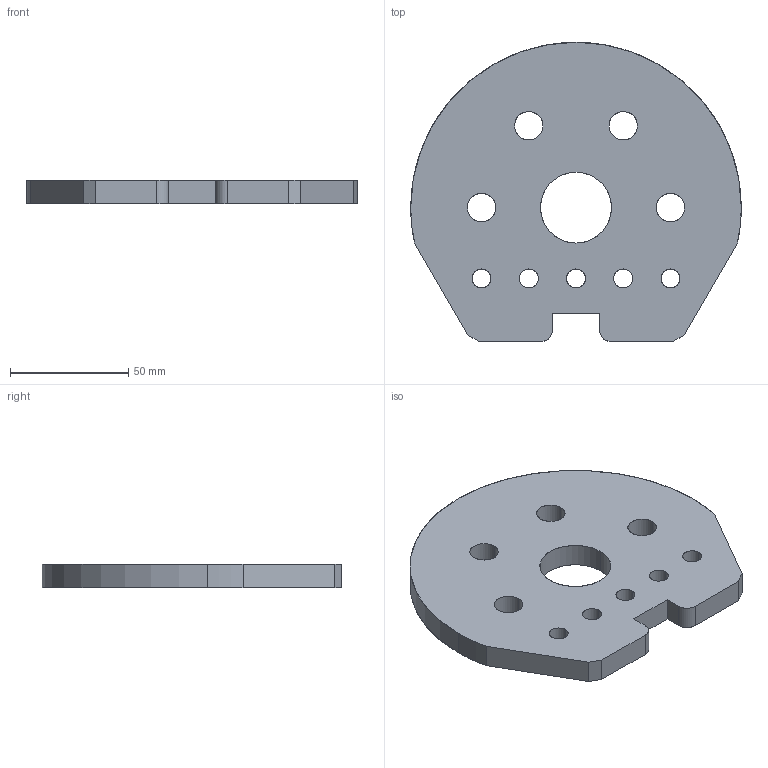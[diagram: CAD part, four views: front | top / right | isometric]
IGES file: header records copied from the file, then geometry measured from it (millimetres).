
Start section: SolidWorks IGES file using analytic representation for surfaces
Global section: file name: E:\Nouveau dossier\tarek\mécaniquee\Solide\TP0 FAO\EX17.IGS; native system: SolidWorks 2013; preprocessor: SolidWorks 2013; author: LENOVO; date: 181002.203148; units: millimetre
Bounding box: 140 x 126.79 x 10 mm (x, y, z)
Surface area: 33873.6 mm2 (no closed solid volume)
Topology: 0 solids, 0 shells, 36 faces, 898 edges, 898 vertices
Faces by surface type: revolution 25, bspline 11
